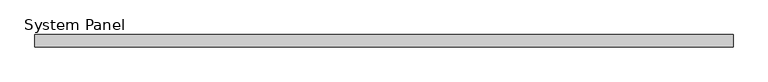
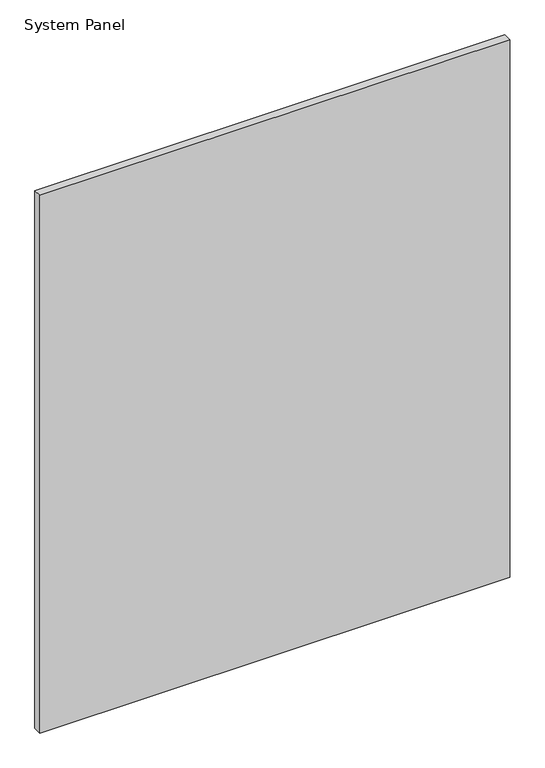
"""IFC4 building model written with IfcOpenShell, lengths in millimetres: plate geometry, System Panel : Panel_Glazed_Generic Showcase_30mm."""

from ifc_helpers import new_model, si_unit, origin, origin_with_axes, place, context, project, spatial, polyline, outline, extrude, source, transform, mapped, element, save


def system_panel_86827fa0(model_context):
    return source(origin(), model_context, "Body", "SweptSolid", [
        extrude(outline(polyline([(847.226735, -30.0), (-847.226735, -30.0), (-847.226735, 0.0), (847.226735, 0.0), (847.226735, -30.0)])), origin_with_axes(), (0.0, 0.0, 1.0), 2050.0),
    ])


if __name__ == "__main__":
    model = new_model("IFC4")
    model_context = context("Model", 3, world=origin())
    ifc_project = project(units=[si_unit("LENGTHUNIT", "METRE", prefix="MILLI")], contexts=[model_context])
    site = spatial("IfcSite", under=ifc_project)
    building = spatial("IfcBuilding", under=site)
    placement = place(None, origin())
    system_panel_shape = system_panel_86827fa0(model_context)
    element("IfcPlate", 1, ObjectType="System Panel : Panel_Glazed_Generic Showcase_30mm", at=placement, inside=building, context=model_context, shape_type="MappedRepresentation", body=[
        mapped(system_panel_shape, transform((0.0, 0.0, 0.0), x_axis=(1.0, 0.0, 0.0), y_axis=(0.0, 1.0, 0.0), z_axis=(0.0, 0.0, 1.0))),
    ])
    save(model, "model.ifc")
